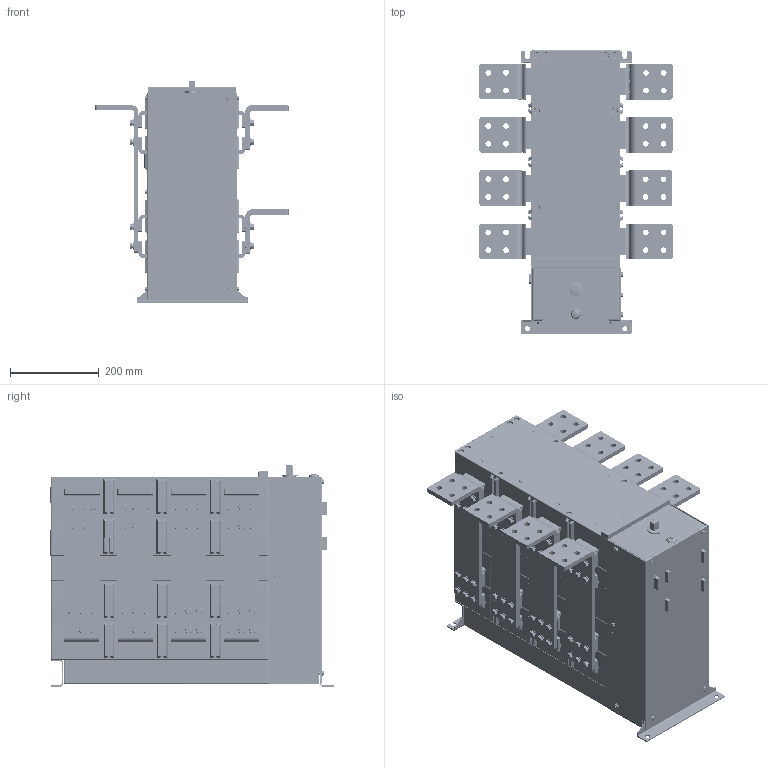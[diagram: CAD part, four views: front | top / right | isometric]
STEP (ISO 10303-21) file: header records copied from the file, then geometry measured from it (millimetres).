
FILE_DESCRIPTION((''),'2;1');
FILE_NAME('NH40-2000-4SZ__ASM_ASM','2020-11-04T',('shift'),(''),'CREO PARAMETRIC BY PTC INC, 2014500','CREO PARAMETRIC BY PTC INC, 2014500','');
FILE_SCHEMA(('AUTOMOTIVE_DESIGN { 1 0 10303 214 1 1 1 1 }'));
Products named in the file (39): MSBR5_1_1_2_1_1_1_1; MSBR18_1_1_1_1_1_1_1; MSBR6_1_1_2_1_1_2_1; MSBR15_1_1_2_1_1_1_1; MSBR4_1_1_2_1_1_2_1; MSBR16_1_1_2_1_1_1_1; MSBR2_1_1_2_1_1_1_1; ADMI0FB0CDB70BN3_ASM_1_ASM_1_AS_ASM; 1000A_ASM_1_ASM_1_ASM_1_ASM_1_A_ASM; 1000A_ASM_ASM_1_ASM_1_ASM_1_ASM_ASM; SHANGGAI1_7_1_1_1_1; SHNGGAIZI_6_1_1_3_1; SHANGGAI3_4_1_1_1_1; TONGJIANANZHUANG_1_2_1_1_1; ANZHUANGJIAO_1_1_1_1_1; DIJIAO_1_1_1_1_1; SHANGBAN_2_1_1_1_1; CEBAN_3_1_1_1_1; CEBAN2_2_1_1_1_1; HENGLIANG_1_1_1_1_1; HONGZHISHI_1_1_1_1_1; YAOSHI_1_1_1_1_1; JIEXIANDUANZI_1_1_1_1_1; CEBANLUOSI_1_1_1_1_1; TONGJIANGUDNGLUOSI_1_1_1_1_1; NH40-2000-4SZ_ASM_10_ASM_1_ASM__ASM; NH40-2000-4SZ_ASM_1_ASM_1_ASM_2_ASM; NH40-2500-4SZ__ASM_1_ASM_2_ASM__ASM; 2_2_1; 7_2_1; 9_2_1; 10_1_1; 16_2_1; 18_1_1; NH40-2500-4SZ_ASM_2_ASM_1_ASM; 1_1; 3_1; NH40-2000-4SZ__ASM_1_ASM; NH40-2000-4SZ__ASM_ASM
Assembly tree (182 placements, depth 10):
  NH40-2000-4SZ__ASM_ASM
    NH40-2000-4SZ__ASM_1_ASM
      NH40-2500-4SZ_ASM_2_ASM_1_ASM
        NH40-2500-4SZ__ASM_1_ASM_2_ASM__ASM
          NH40-2000-4SZ_ASM_1_ASM_1_ASM_2_ASM
            NH40-2000-4SZ_ASM_10_ASM_1_ASM__ASM
              1000A_ASM_ASM_1_ASM_1_ASM_1_ASM_ASM
                1000A_ASM_1_ASM_1_ASM_1_ASM_1_A_ASM
                  ADMI0FB0CDB70BN3_ASM_1_ASM_1_AS_ASM
              SHANGGAI1_7_1_1_1_1
              SHNGGAIZI_6_1_1_3_1  x2
              SHANGGAI3_4_1_1_1_1
              TONGJIANANZHUANG_1_2_1_1_1  x32
              ANZHUANGJIAO_1_1_1_1_1
              DIJIAO_1_1_1_1_1
              SHANGBAN_2_1_1_1_1
              CEBAN_3_1_1_1_1
              CEBAN2_2_1_1_1_1
              HENGLIANG_1_1_1_1_1
              HONGZHISHI_1_1_1_1_1
              YAOSHI_1_1_1_1_1
              JIEXIANDUANZI_1_1_1_1_1  x5
              CEBANLUOSI_1_1_1_1_1  x10
              TONGJIANGUDNGLUOSI_1_1_1_1_1  x48
        2_2_1  x2
        7_2_1
        9_2_1
        10_1_1  x48
        16_2_1
        18_1_1
      1_1  x2
      3_1  x4
Bounding box: 435.7 x 640.23 x 498.68 mm (x, y, z)
Volume: 50172033.8 mm3; surface area: 4679672.6 mm2
Topology: 174 solids, 178 shells, 8180 faces, 20250 edges, 12970 vertices
Faces by surface type: plane 3906, cylinder 3296, bspline 513, cone 222, torus 133, sphere 108, extrusion 2
Entity records: 182025 total; most frequent: CARTESIAN_POINT 57680, ORIENTED_EDGE 20380, DIRECTION 18686, EDGE_CURVE 10190, PRESENTATION_STYLE_ASSIGNMENT 8093, STYLED_ITEM 8093, CURVE_STYLE 7633, VERTEX_POINT 6440
